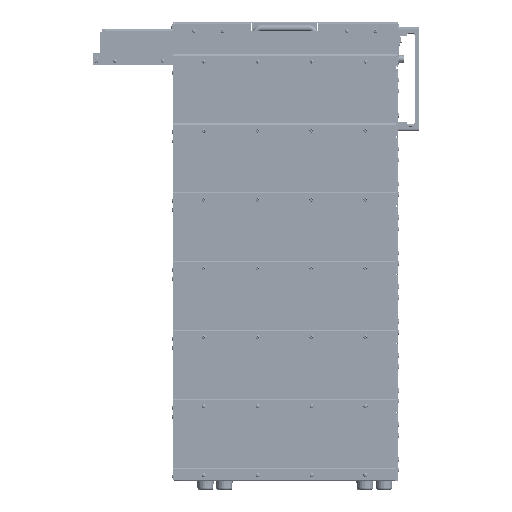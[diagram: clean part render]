
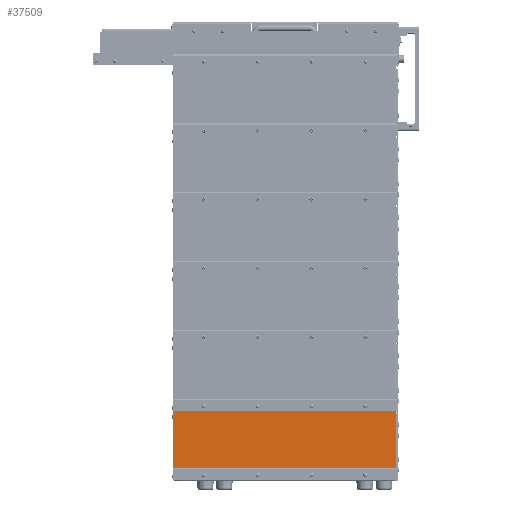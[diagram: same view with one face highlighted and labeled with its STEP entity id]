
A CAD part, left-side view. The second image highlights one B-rep face of the part: STEP entity #37509.
In plain terms, the highlighted planar face has unit normal (-1, 0, 0).
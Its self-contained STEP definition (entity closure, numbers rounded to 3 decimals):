
#37509=ADVANCED_FACE('',(#103658,#103659,#103660,#103661,#103662),#103663,.T.);
#103658=FACE_OUTER_BOUND('',#207745,.T.);
#103659=FACE_BOUND('',#207746,.T.);
#103660=FACE_BOUND('',#207747,.T.);
#103661=FACE_BOUND('',#207748,.T.);
#103662=FACE_BOUND('',#207749,.T.);
#103663=PLANE('',#207750);
#207745=EDGE_LOOP('',(#313686,#313687,#313688,#313689,#313690,#313691,#313692,#313693));
#207746=EDGE_LOOP('',(#313694,#313695));
#207747=EDGE_LOOP('',(#313696,#313697));
#207748=EDGE_LOOP('',(#313698,#313699));
#207749=EDGE_LOOP('',(#313700,#313701));
#207750=AXIS2_PLACEMENT_3D('',#313702,#313703,#313704);
#313686=ORIENTED_EDGE('',*,*,#567548,.F.);
#313687=ORIENTED_EDGE('',*,*,#567556,.T.);
#313688=ORIENTED_EDGE('',*,*,#567567,.F.);
#313689=ORIENTED_EDGE('',*,*,#567543,.F.);
#313690=ORIENTED_EDGE('',*,*,#567591,.T.);
#313691=ORIENTED_EDGE('',*,*,#567609,.F.);
#313692=ORIENTED_EDGE('',*,*,#567610,.F.);
#313693=ORIENTED_EDGE('',*,*,#567550,.F.);
#313694=ORIENTED_EDGE('',*,*,#567526,.T.);
#313695=ORIENTED_EDGE('',*,*,#567593,.T.);
#313696=ORIENTED_EDGE('',*,*,#567521,.T.);
#313697=ORIENTED_EDGE('',*,*,#567595,.T.);
#313698=ORIENTED_EDGE('',*,*,#567516,.T.);
#313699=ORIENTED_EDGE('',*,*,#567597,.T.);
#313700=ORIENTED_EDGE('',*,*,#567511,.T.);
#313701=ORIENTED_EDGE('',*,*,#567599,.T.);
#313702=CARTESIAN_POINT('',(546.234,604.229,-642.702));
#313703=DIRECTION('',(-1.0,0.,0.));
#313704=DIRECTION('',(0.,0.,1.0));
#567511=EDGE_CURVE('',#678403,#678400,#678404,.T.);
#567516=EDGE_CURVE('',#678412,#678409,#678413,.T.);
#567521=EDGE_CURVE('',#678421,#678418,#678422,.T.);
#567526=EDGE_CURVE('',#678430,#678427,#678431,.T.);
#567543=EDGE_CURVE('',#678459,#678455,#678461,.T.);
#567548=EDGE_CURVE('',#678468,#678464,#678470,.T.);
#567550=EDGE_CURVE('',#678464,#678472,#678473,.T.);
#567556=EDGE_CURVE('',#678468,#678480,#678482,.T.);
#567567=EDGE_CURVE('',#678455,#678480,#678495,.T.);
#567591=EDGE_CURVE('',#678459,#678525,#678527,.T.);
#567593=EDGE_CURVE('',#678427,#678430,#678529,.T.);
#567595=EDGE_CURVE('',#678418,#678421,#678531,.T.);
#567597=EDGE_CURVE('',#678409,#678412,#678533,.T.);
#567599=EDGE_CURVE('',#678400,#678403,#678535,.T.);
#567609=EDGE_CURVE('',#678545,#678525,#678546,.T.);
#567610=EDGE_CURVE('',#678472,#678545,#678547,.T.);
#678400=VERTEX_POINT('',#844350);
#678403=VERTEX_POINT('',#844354);
#678404=CIRCLE('',#844355,2.5);
#678409=VERTEX_POINT('',#844361);
#678412=VERTEX_POINT('',#844365);
#678413=CIRCLE('',#844366,2.5);
#678418=VERTEX_POINT('',#844372);
#678421=VERTEX_POINT('',#844376);
#678422=CIRCLE('',#844377,2.5);
#678427=VERTEX_POINT('',#844383);
#678430=VERTEX_POINT('',#844387);
#678431=CIRCLE('',#844388,2.5);
#678455=VERTEX_POINT('',#844417);
#678459=VERTEX_POINT('',#844422);
#678461=CIRCLE('',#844425,1.457);
#678464=VERTEX_POINT('',#844428);
#678468=VERTEX_POINT('',#844433);
#678470=CIRCLE('',#844436,2.538);
#678472=VERTEX_POINT('',#844438);
#678473=CIRCLE('',#844439,2.538);
#678480=VERTEX_POINT('',#844448);
#678482=LINE('',#844451,#844452);
#678495=CIRCLE('',#844468,1.457);
#678525=VERTEX_POINT('',#844507);
#678527=LINE('',#844510,#844511);
#678529=CIRCLE('',#844513,2.5);
#678531=CIRCLE('',#844515,2.5);
#678533=CIRCLE('',#844517,2.5);
#678535=CIRCLE('',#844519,2.5);
#678545=VERTEX_POINT('',#844529);
#678546=LINE('',#844530,#844531);
#678547=LINE('',#844532,#844533);
#844350=CARTESIAN_POINT('',(546.234,974.979,-587.277));
#844354=CARTESIAN_POINT('',(546.234,979.979,-587.277));
#844355=AXIS2_PLACEMENT_3D('',#1060105,#1060106,#1060107);
#844361=CARTESIAN_POINT('',(546.234,870.559,-587.277));
#844365=CARTESIAN_POINT('',(546.234,875.559,-587.277));
#844366=AXIS2_PLACEMENT_3D('',#1060113,#1060114,#1060115);
#844372=CARTESIAN_POINT('',(546.234,766.149,-587.277));
#844376=CARTESIAN_POINT('',(546.234,771.149,-587.277));
#844377=AXIS2_PLACEMENT_3D('',#1060121,#1060122,#1060123);
#844383=CARTESIAN_POINT('',(546.234,661.729,-587.277));
#844387=CARTESIAN_POINT('',(546.234,666.729,-587.277));
#844388=AXIS2_PLACEMENT_3D('',#1060129,#1060130,#1060131);
#844417=CARTESIAN_POINT('',(546.234,1037.053,-579.454));
#844422=CARTESIAN_POINT('',(546.234,1037.479,-580.484));
#844425=AXIS2_PLACEMENT_3D('',#1060157,#1060158,#1060159);
#844428=CARTESIAN_POINT('',(546.234,604.973,-579.771));
#844433=CARTESIAN_POINT('',(546.234,606.767,-579.027));
#844436=AXIS2_PLACEMENT_3D('',#1060165,#1060166,#1060167);
#844438=CARTESIAN_POINT('',(546.234,604.229,-581.565));
#844439=AXIS2_PLACEMENT_3D('',#1060168,#1060169,#1060170);
#844448=CARTESIAN_POINT('',(546.234,1036.023,-579.027));
#844451=CARTESIAN_POINT('',(546.234,604.229,-579.027));
#844452=VECTOR('',#1060177,1.0);
#844468=AXIS2_PLACEMENT_3D('',#1060196,#1060197,#1060198);
#844507=CARTESIAN_POINT('',(546.234,1037.479,-706.377));
#844510=CARTESIAN_POINT('',(546.234,1037.479,-579.027));
#844511=VECTOR('',#1060233,1.0);
#844513=AXIS2_PLACEMENT_3D('',#1060234,#1060235,#1060236);
#844515=AXIS2_PLACEMENT_3D('',#1060237,#1060238,#1060239);
#844517=AXIS2_PLACEMENT_3D('',#1060240,#1060241,#1060242);
#844519=AXIS2_PLACEMENT_3D('',#1060243,#1060244,#1060245);
#844529=CARTESIAN_POINT('',(546.234,604.229,-706.377));
#844530=CARTESIAN_POINT('',(546.234,604.229,-706.377));
#844531=VECTOR('',#1060258,1.0);
#844532=CARTESIAN_POINT('',(546.234,604.229,-579.027));
#844533=VECTOR('',#1060259,1.0);
#1060105=CARTESIAN_POINT('',(546.234,977.479,-587.277));
#1060106=DIRECTION('',(1.0,0.,0.));
#1060107=DIRECTION('',(0.,-1.0,0.));
#1060113=CARTESIAN_POINT('',(546.234,873.059,-587.277));
#1060114=DIRECTION('',(1.0,0.,0.));
#1060115=DIRECTION('',(0.,-1.0,0.));
#1060121=CARTESIAN_POINT('',(546.234,768.649,-587.277));
#1060122=DIRECTION('',(1.0,0.,0.));
#1060123=DIRECTION('',(0.,-1.0,0.));
#1060129=CARTESIAN_POINT('',(546.234,664.229,-587.277));
#1060130=DIRECTION('',(1.0,0.,0.));
#1060131=DIRECTION('',(0.,-1.0,0.));
#1060157=CARTESIAN_POINT('',(546.234,1036.023,-580.484));
#1060158=DIRECTION('',(1.0,0.,0.));
#1060159=DIRECTION('',(0.,0.707,0.707));
#1060165=CARTESIAN_POINT('',(546.234,606.767,-581.565));
#1060166=DIRECTION('',(1.0,0.,0.));
#1060167=DIRECTION('',(0.,-0.707,0.707));
#1060168=CARTESIAN_POINT('',(546.234,606.767,-581.565));
#1060169=DIRECTION('',(1.0,0.,0.));
#1060170=DIRECTION('',(0.,-0.707,0.707));
#1060177=DIRECTION('',(0.0,1.0,0.0));
#1060196=CARTESIAN_POINT('',(546.234,1036.023,-580.484));
#1060197=DIRECTION('',(1.0,0.,0.));
#1060198=DIRECTION('',(0.,0.707,0.707));
#1060233=DIRECTION('',(0.0,0.0,-1.0));
#1060234=CARTESIAN_POINT('',(546.234,664.229,-587.277));
#1060235=DIRECTION('',(1.0,0.,0.));
#1060236=DIRECTION('',(0.,-1.0,0.));
#1060237=CARTESIAN_POINT('',(546.234,768.649,-587.277));
#1060238=DIRECTION('',(1.0,0.,0.));
#1060239=DIRECTION('',(0.,-1.0,0.));
#1060240=CARTESIAN_POINT('',(546.234,873.059,-587.277));
#1060241=DIRECTION('',(1.0,0.,0.));
#1060242=DIRECTION('',(0.,-1.0,0.));
#1060243=CARTESIAN_POINT('',(546.234,977.479,-587.277));
#1060244=DIRECTION('',(1.0,0.,0.));
#1060245=DIRECTION('',(0.,-1.0,0.));
#1060258=DIRECTION('',(0.0,1.0,0.0));
#1060259=DIRECTION('',(0.0,0.0,-1.0));
